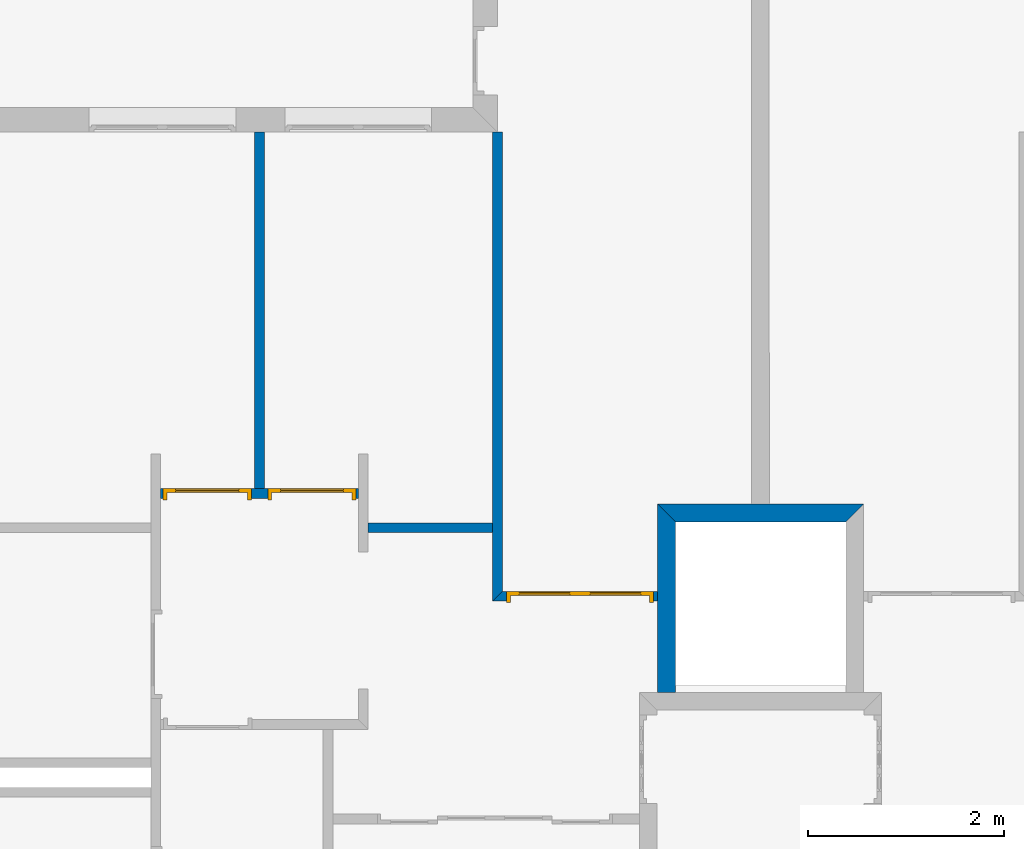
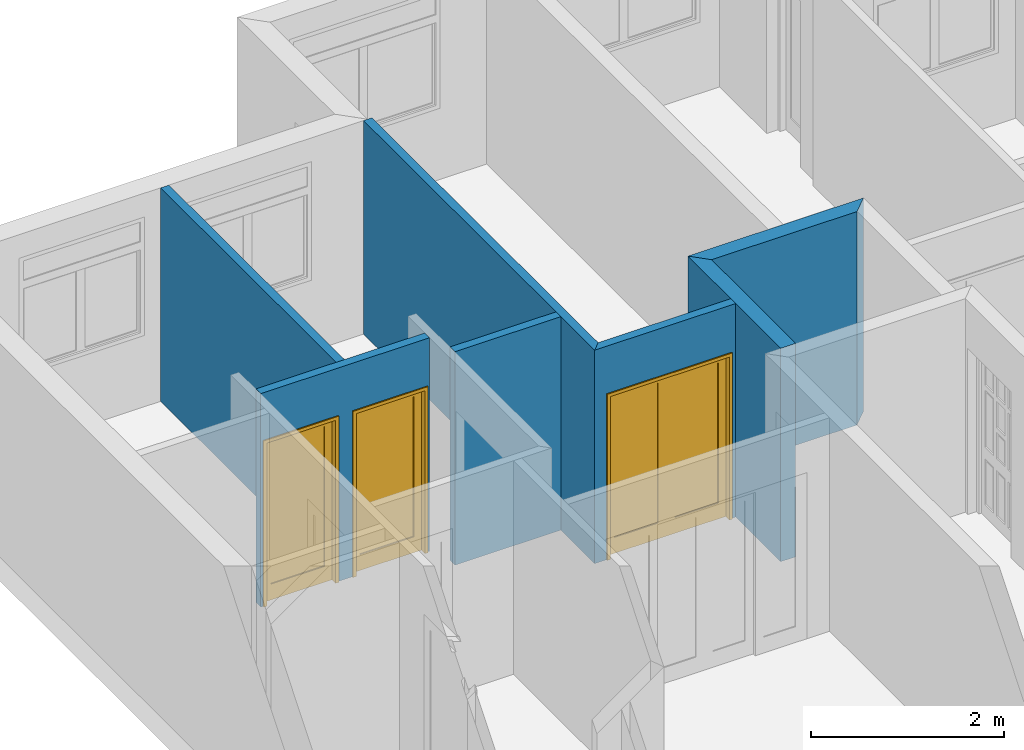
# One storey, part 9 of 13: 7 walls, 3 doors, 3 openings.
"""IFC2X3 building model written with IfcOpenShell, lengths in metres."""

from ifc_helpers import new_model, entity, si_unit, converted_unit, direction, frame, frame_2d, origin_with_axes, place, context, project, spatial, polyline, rectangle, outline, extrude, faceted_brep, source, transform, mapped, material, layer, layer_set, layer_usage, type_object, element, fill, save


model = new_model("IFC2X3")

# Units and contexts
context_of_model = context(None, 3, precision=1e-05, world=origin_with_axes(), true_north=direction((6.123234e-17, 1.0)))
plan_context = context("Plan", 3, precision=1e-05, world=origin_with_axes(), true_north=direction((6.123234e-17, 1.0)))
model_context = context("Model", 3, precision=1e-05, world=origin_with_axes(), true_north=direction((6.123234e-17, 1.0)))
ifc_project = project(units=[si_unit("LENGTHUNIT", "METRE"), si_unit("AREAUNIT", "SQUARE_METRE"), si_unit("VOLUMEUNIT", "CUBIC_METRE"), converted_unit("PLANEANGLEUNIT", "DEGREE", entity("IfcPlaneAngleMeasure", 0.017453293), si_unit("PLANEANGLEUNIT", "RADIAN"), dimensions=[0, 0, 0, 0, 0, 0, 0]), si_unit("SOLIDANGLEUNIT", "STERADIAN"), si_unit("MASSUNIT", "GRAM"), si_unit("TIMEUNIT", "SECOND"), si_unit("THERMODYNAMICTEMPERATUREUNIT", "DEGREE_CELSIUS"), si_unit("LUMINOUSINTENSITYUNIT", "LUMEN")], contexts=[context_of_model, plan_context, model_context])

# Site, building, storey
site_placement = place(None, origin_with_axes())
site = spatial("IfcSite", under=ifc_project, at=site_placement, Name="Por defecto Sitio", CompositionType="ELEMENT")
building_placement = place(site_placement, origin_with_axes())
building = spatial("IfcBuilding", under=site, at=building_placement, Name="Por defecto Edificio", CompositionType="ELEMENT")
storey_placement = place(building_placement, frame((0.0, 0.0, 7.2), z_axis=(0.0, 0.0, 1.0), x_axis=(1.0, 0.0, 0.0)))
storey = spatial("IfcBuildingStorey", under=building, at=storey_placement, Name="Segunda", CompositionType="ELEMENT", Elevation=7.2)

# Walls
ifc_material = material(Name="Ladrillo común")
ifc_layer_1 = layer(ifc_material, 0.18, ventilated="UNKNOWN")
ifc_layer_set_1 = layer_set([ifc_layer_1], Name="Ladrillo común")
ifc_layer_usage_1 = layer_usage(ifc_layer_set_1, "AXIS2", "NEGATIVE", 0.0)
wall_type_1 = type_object("IfcWallType", Name="Ladrillo común", PredefinedType="NOTDEFINED")
wall_1_placement = place(storey_placement, frame((6.965, 7.2976562, 0.0), z_axis=(0.0, 0.0, 1.0), x_axis=(0.0, 1.0, 0.0)))
element("IfcWallStandardCase", 1, at=wall_1_placement, inside=storey, type_object=wall_type_1, material=ifc_layer_usage_1, Name="Muro-011", context=context_of_model, shape_type="SweptSolid", body=[
    extrude(outline(polyline([(0.18, -0.18), (1.9231052, -0.18), (2.1031052, 0.0), (0.18, 8.8817842e-16), (0.18, -0.18)])), origin_with_axes(), (0.0, 0.0, 1.0), 2.7),
])
ifc_layer_usage_2 = layer_usage(ifc_layer_set_1, "AXIS2", "NEGATIVE", 0.0)
wall_2_placement = place(storey_placement, frame((6.965, 9.4007615, 0.0), z_axis=(0.0, 0.0, 1.0), x_axis=(1.0, 0.0, 0.0)))
element("IfcWallStandardCase", 2, at=wall_2_placement, inside=storey, type_object=wall_type_1, material=ifc_layer_usage_2, Name="Muro-012", context=context_of_model, shape_type="SweptSolid", body=[
    extrude(outline(polyline([(0.18, -0.18), (1.92, -0.18), (2.1, 0.0), (-8.8817842e-16, 0.0), (0.18, -0.18)])), origin_with_axes(), (0.0, 0.0, 1.0), 2.7),
])

# Wall, opening, door
ifc_layer_2 = layer(ifc_material, 0.1, ventilated="UNKNOWN")
ifc_layer_set_2 = layer_set([ifc_layer_2], Name="Ladrillo común")
ifc_layer_usage_3 = layer_usage(ifc_layer_set_2, "AXIS2", "POSITIVE", 0.0)
wall_type_2 = type_object("IfcWallType", Name="Ladrillo común", PredefinedType="NOTDEFINED")
wall_3_placement = place(storey_placement, frame((6.965, 8.5109196, 0.0), z_axis=(0.0, 0.0, 1.0), x_axis=(-1.0, 0.0, 0.0)))
wall_3 = element("IfcWallStandardCase", 3, at=wall_3_placement, inside=storey, type_object=wall_type_2, material=ifc_layer_usage_3, Name="Muro-028", context=context_of_model, shape_type="SweptSolid", body=[
    extrude(outline(polyline([(0.0, 0.0), (1.5868836, 0.0), (1.6868836, 0.1), (2.6645353e-15, 0.1), (0.0, 0.0)])), origin_with_axes(), (0.0, 0.0, 1.0), 2.7),
])
opening_1_placement = place(wall_3_placement, frame((0.7934418, 0.0, 0.0), z_axis=(0.0, 0.0, 1.0), x_axis=(1.0, 0.0, 0.0)))
opening_1 = element("IfcOpeningElement", 4, at=opening_1_placement, cuts=wall_3, ObjectType="Opening", context=model_context, shape_type="SweptSolid", body=[
    extrude(rectangle(XDim=1.5, YDim=2.1, at=frame_2d((0.0, 1.05), x_axis=(-1.0, 0.0))), frame((0.0, 0.0, 0.0), z_axis=(0.0, 1.0, 0.0), x_axis=(-1.0, 0.0, 0.0)), (0.0, 0.0, 1.0), 0.1),
])
door_style_1 = type_object("IfcDoorStyle", Name="P2 12", ConstructionType="NOTDEFINED", OperationType="DOUBLE_DOOR_SINGLE_SWING", ParameterTakesPrecedence=False, Sizeable=False)
shared_shape_1 = source(origin_with_axes(), model_context, "Body", "Brep", [
    faceted_brep([(0.04, 0.075, 0.0), (0.04, 0.075, 2.06), (0.04, 0.0, 2.06), (0.04, 0.0, 0.0), (0.028, 0.075, 2.06), (0.028, 0.075, 0.0), (0.028, 0.115, 2.06), (0.0, 0.115, 2.06), (0.0, 0.0, 2.06), (0.0, 0.0, 0.0), (0.0, 0.115, 0.0), (0.028, 0.115, 0.0)], [[[0, 1, 2, 3]], [[4, 1, 0, 5]], [[4, 6, 7, 8, 2, 1]], [[9, 3, 2, 8]], [[5, 0, 3, 9, 10, 11]], [[6, 4, 5, 11]], [[6, 11, 10, 7]], [[8, 7, 10, 9]]]),
    faceted_brep([(1.472, 0.075, 2.06), (1.46, 0.075, 2.06), (1.46, 0.0, 2.06), (1.5, 0.0, 2.06), (1.5, 0.115, 2.06), (1.472, 0.115, 2.06), (1.472, 0.075, 0.0), (1.46, 0.075, 0.0), (1.46, 0.0, 0.0), (1.5, 0.0, 0.0), (1.5, 0.115, 0.0), (1.472, 0.115, 0.0)], [[[0, 1, 2, 3, 4, 5]], [[1, 0, 6, 7]], [[1, 7, 8, 2]], [[8, 9, 3, 2]], [[9, 10, 4, 3]], [[11, 5, 4, 10]], [[0, 5, 11, 6]], [[6, 11, 10, 9, 8, 7]]]),
    faceted_brep([(0.028, 0.115, 2.072), (0.028, 0.115, 2.06), (0.0, 0.115, 2.06), (0.0, 0.115, 2.1), (1.5, 0.115, 2.1), (1.5, 0.115, 2.06), (1.472, 0.115, 2.06), (1.472, 0.115, 2.072), (0.028, 0.075, 2.072), (0.028, 0.075, 2.06), (0.04, 0.075, 2.06), (0.04, 0.0, 2.06), (0.0, 0.0, 2.06), (0.0, 0.0, 2.1), (1.5, 0.0, 2.1), (1.5, 0.0, 2.06), (1.472, 0.075, 2.06), (1.46, 0.0, 2.06), (1.46, 0.075, 2.06), (1.472, 0.075, 2.072)], [[[0, 1, 2, 3, 4, 5, 6, 7]], [[1, 0, 8, 9]], [[9, 10, 11, 12, 2, 1]], [[13, 3, 2, 12]], [[14, 4, 3, 13]], [[15, 5, 4, 14]], [[16, 6, 5, 15, 17, 18]], [[7, 6, 16, 19]], [[0, 7, 19, 8]], [[16, 18, 10, 9, 8, 19]], [[10, 18, 17, 11]], [[14, 13, 12, 11, 17, 15]]]),
    faceted_brep([(1.472, 0.115, 0.2), (1.472, 0.075, 0.2), (1.372, 0.075, 0.2), (1.372, 0.115, 0.2), (1.472, 0.115, 1.972), (1.472, 0.075, 1.972), (1.372, 0.075, 1.972), (1.372, 0.115, 1.972)], [[[0, 1, 2, 3]], [[4, 5, 1, 0]], [[1, 5, 6, 2]], [[3, 2, 6, 7]], [[0, 3, 7, 4]], [[7, 6, 5, 4]]]),
    faceted_brep([(0.751, 0.115, 0.2), (0.751, 0.075, 0.2), (0.751, 0.075, 1.972), (0.751, 0.115, 1.972), (0.851, 0.115, 0.2), (0.851, 0.075, 0.2), (0.851, 0.075, 1.972), (0.851, 0.115, 1.972)], [[[0, 1, 2, 3]], [[4, 5, 1, 0]], [[1, 5, 6, 2]], [[3, 2, 6, 7]], [[0, 3, 7, 4]], [[7, 6, 5, 4]]]),
    faceted_brep([(1.472, 0.115, 0.0), (1.472, 0.075, 0.0), (0.751, 0.075, 0.0), (0.751, 0.115, 0.0), (1.472, 0.115, 0.2), (1.472, 0.075, 0.2), (1.372, 0.075, 0.2), (0.851, 0.075, 0.2), (0.751, 0.075, 0.2), (0.751, 0.115, 0.2), (0.851, 0.115, 0.2), (1.372, 0.115, 0.2)], [[[0, 1, 2, 3]], [[4, 5, 1, 0]], [[1, 5, 6, 7, 8, 2]], [[3, 2, 8, 9]], [[0, 3, 9, 10, 11, 4]], [[11, 6, 5, 4]], [[10, 7, 6, 11]], [[9, 8, 7, 10]]]),
    faceted_brep([(1.472, 0.115, 2.072), (1.472, 0.075, 2.072), (1.472, 0.075, 1.972), (1.472, 0.115, 1.972), (0.751, 0.115, 2.072), (0.751, 0.075, 2.072), (0.751, 0.075, 1.972), (0.851, 0.075, 1.972), (1.372, 0.075, 1.972), (1.372, 0.115, 1.972), (0.851, 0.115, 1.972), (0.751, 0.115, 1.972)], [[[0, 1, 2, 3]], [[4, 5, 1, 0]], [[1, 5, 6, 7, 8, 2]], [[3, 2, 8, 9]], [[0, 3, 9, 10, 11, 4]], [[11, 6, 5, 4]], [[10, 7, 6, 11]], [[9, 8, 7, 10]]]),
    faceted_brep([(1.372, 0.101, 0.2), (1.372, 0.089, 0.2), (0.851, 0.089, 0.2), (0.851, 0.101, 0.2), (1.372, 0.101, 1.972), (1.372, 0.089, 1.972), (0.851, 0.089, 1.972), (0.851, 0.101, 1.972)], [[[0, 1, 2, 3]], [[4, 5, 1, 0]], [[1, 5, 6, 2]], [[3, 2, 6, 7]], [[0, 3, 7, 4]], [[7, 6, 5, 4]]]),
    faceted_brep([(0.028, 0.115, 0.2), (0.128, 0.115, 0.2), (0.128, 0.075, 0.2), (0.028, 0.075, 0.2), (0.028, 0.115, 1.972), (0.128, 0.115, 1.972), (0.128, 0.075, 1.972), (0.028, 0.075, 1.972)], [[[0, 1, 2, 3]], [[0, 4, 5, 1]], [[1, 5, 6, 2]], [[3, 2, 6, 7]], [[4, 0, 3, 7]], [[5, 4, 7, 6]]]),
    faceted_brep([(0.749, 0.115, 0.2), (0.749, 0.115, 1.972), (0.749, 0.075, 1.972), (0.749, 0.075, 0.2), (0.649, 0.115, 0.2), (0.649, 0.115, 1.972), (0.649, 0.075, 1.972), (0.649, 0.075, 0.2)], [[[0, 1, 2, 3]], [[0, 4, 5, 1]], [[1, 5, 6, 2]], [[3, 2, 6, 7]], [[4, 0, 3, 7]], [[5, 4, 7, 6]]]),
    faceted_brep([(0.028, 0.115, 0.0), (0.749, 0.115, 0.0), (0.749, 0.075, 0.0), (0.028, 0.075, 0.0), (0.028, 0.115, 0.2), (0.128, 0.115, 0.2), (0.649, 0.115, 0.2), (0.749, 0.115, 0.2), (0.749, 0.075, 0.2), (0.649, 0.075, 0.2), (0.128, 0.075, 0.2), (0.028, 0.075, 0.2)], [[[0, 1, 2, 3]], [[0, 4, 5, 6, 7, 1]], [[1, 7, 8, 2]], [[3, 2, 8, 9, 10, 11]], [[4, 0, 3, 11]], [[5, 4, 11, 10]], [[6, 5, 10, 9]], [[7, 6, 9, 8]]]),
    faceted_brep([(0.028, 0.115, 2.072), (0.028, 0.115, 1.972), (0.028, 0.075, 1.972), (0.028, 0.075, 2.072), (0.749, 0.115, 2.072), (0.749, 0.115, 1.972), (0.649, 0.115, 1.972), (0.128, 0.115, 1.972), (0.128, 0.075, 1.972), (0.649, 0.075, 1.972), (0.749, 0.075, 1.972), (0.749, 0.075, 2.072)], [[[0, 1, 2, 3]], [[0, 4, 5, 6, 7, 1]], [[1, 7, 8, 2]], [[3, 2, 8, 9, 10, 11]], [[4, 0, 3, 11]], [[5, 4, 11, 10]], [[6, 5, 10, 9]], [[7, 6, 9, 8]]]),
    faceted_brep([(0.128, 0.101, 0.2), (0.649, 0.101, 0.2), (0.649, 0.089, 0.2), (0.128, 0.089, 0.2), (0.128, 0.101, 1.972), (0.649, 0.101, 1.972), (0.649, 0.089, 1.972), (0.128, 0.089, 1.972)], [[[0, 1, 2, 3]], [[0, 4, 5, 1]], [[1, 5, 6, 2]], [[3, 2, 6, 7]], [[4, 0, 3, 7]], [[5, 4, 7, 6]]]),
])
door_1_placement = place(opening_1_placement, frame((0.75, 0.115, 0.0), z_axis=(0.0, 0.0, 1.0), x_axis=(-1.0, 0.0, 0.0)))
door_1 = element("IfcDoor", 5, at=door_1_placement, inside=storey, type_object=door_style_1, Name="P27", OverallHeight=2.1, OverallWidth=1.5, context=model_context, shape_type="MappedRepresentation", body=[
    mapped(shared_shape_1, transform((0.0, 0.0, 0.0), scale=1.0)),
])
fill(opening_1, door_1)

# Walls
ifc_layer_usage_4 = layer_usage(ifc_layer_set_2, "AXIS2", "POSITIVE", 0.0)
wall_4_placement = place(storey_placement, frame((2.9501652, 9.4609196, 0.0), z_axis=(0.0, 0.0, 1.0), x_axis=(0.0, 1.0, 0.0)))
element("IfcWallStandardCase", 6, at=wall_4_placement, inside=storey, type_object=wall_type_2, material=ifc_layer_usage_4, Name="Muro-039", context=context_of_model, shape_type="SweptSolid", body=[
    extrude(outline(polyline([(0.1, 0.0), (3.738253, 0.0), (3.738253, 0.1), (0.1, 0.1), (0.1, 0.0)])), origin_with_axes(), (0.0, 0.0, 1.0), 2.7),
])
ifc_layer_usage_5 = layer_usage(ifc_layer_set_2, "AXIS2", "POSITIVE", 0.0)
wall_5_placement = place(storey_placement, frame((5.2781164, 9.2109196, 0.0), z_axis=(0.0, 0.0, 1.0), x_axis=(-1.0, 0.0, 0.0)))
element("IfcWallStandardCase", 7, at=wall_5_placement, inside=storey, type_object=wall_type_2, material=ifc_layer_usage_5, Name="Muro-027", context=context_of_model, shape_type="SweptSolid", body=[
    extrude(outline(polyline([(0.0, 0.0), (1.2679512, 0.0), (1.2679512, 0.1), (0.0, 0.1), (0.0, 0.0)])), origin_with_axes(), (0.0, 0.0, 1.0), 2.7),
])

# Wall, openings, doors
ifc_layer_usage_6 = layer_usage(ifc_layer_set_2, "AXIS2", "POSITIVE", 0.0)
wall_6_placement = place(storey_placement, frame((1.8901652, 9.4609196, 0.0), z_axis=(0.0, 0.0, 1.0), x_axis=(1.0, 0.0, 0.0)))
wall_6 = element("IfcWallStandardCase", 8, at=wall_6_placement, inside=storey, type_object=wall_type_2, material=ifc_layer_usage_6, Name="Muro-038", context=context_of_model, shape_type="SweptSolid", body=[
    extrude(outline(polyline([(0.0, 0.0), (2.02, 0.0), (2.02, 0.1), (0.0, 0.1), (0.0, 0.0)])), origin_with_axes(), (0.0, 0.0, 1.0), 2.7),
])
opening_2_placement = place(wall_6_placement, frame((1.5448045, 0.0, 0.0), z_axis=(0.0, 0.0, 1.0), x_axis=(1.0, 0.0, 0.0)))
opening_2 = element("IfcOpeningElement", 9, at=opening_2_placement, cuts=wall_6, ObjectType="Opening", context=model_context, shape_type="SweptSolid", body=[
    extrude(rectangle(XDim=0.9, YDim=2.1, at=frame_2d((0.0, 1.05), x_axis=(-1.0, 0.0))), frame((0.0, 0.0, 0.0), z_axis=(0.0, 1.0, 0.0), x_axis=(-1.0, 0.0, 0.0)), (0.0, 0.0, 1.0), 0.1),
])
opening_3_placement = place(wall_6_placement, frame((0.47680965, 0.0, 0.0), z_axis=(0.0, 0.0, 1.0), x_axis=(1.0, 0.0, 0.0)))
opening_3 = element("IfcOpeningElement", 10, at=opening_3_placement, cuts=wall_6, ObjectType="Opening", context=model_context, shape_type="SweptSolid", body=[
    extrude(rectangle(XDim=0.9, YDim=2.1, at=frame_2d((1.110223e-16, 1.05), x_axis=(1.0, 0.0))), frame((0.0, 0.0, 0.0), z_axis=(0.0, 1.0, 0.0), x_axis=(-1.0, 0.0, 0.0)), (0.0, 0.0, 1.0), 0.1),
])
door_style_2 = type_object("IfcDoorStyle", Name="P1 12", ConstructionType="NOTDEFINED", OperationType="SINGLE_SWING_RIGHT", ParameterTakesPrecedence=False, Sizeable=False)
shared_shape_2 = source(origin_with_axes(), model_context, "Body", "Brep", [
    faceted_brep([(0.04, 0.075, -2.4492936e-18), (0.04, 0.075, 2.06), (0.04, 0.0, 2.06), (0.04, 0.0, -7.0417191e-18), (0.028, 0.075, 2.06), (0.028, 0.075, -2.4492936e-18), (0.028, 0.115, 2.06), (0.0, 0.115, 2.06), (0.0, 0.0, 2.06), (0.0, 0.0, 0.0), (0.0, 0.115, 3.3744595e-33), (0.028, 0.115, 3.2707143e-33)], [[[0, 1, 2, 3]], [[4, 1, 0, 5]], [[4, 6, 7, 8, 2, 1]], [[9, 3, 2, 8]], [[5, 0, 3, 9, 10, 11]], [[6, 4, 5, 11]], [[6, 11, 10, 7]], [[8, 7, 10, 9]]]),
    faceted_brep([(0.872, 0.075, 2.06), (0.86, 0.075, 2.06), (0.86, 0.0, 2.06), (0.9, 0.0, 2.06), (0.9, 0.115, 2.06), (0.872, 0.115, 2.06), (0.872, 0.075, -2.4492936e-18), (0.86, 0.075, -2.4492936e-18), (0.86, 0.0, -7.0417191e-18), (0.9, 0.0, -7.0417191e-18), (0.9, 0.115, -3.3744595e-33), (0.872, 0.115, -3.1644931e-33)], [[[0, 1, 2, 3, 4, 5]], [[1, 0, 6, 7]], [[1, 7, 8, 2]], [[8, 9, 3, 2]], [[9, 10, 4, 3]], [[11, 5, 4, 10]], [[0, 5, 11, 6]], [[6, 11, 10, 9, 8, 7]]]),
    faceted_brep([(0.028, 0.115, 2.072), (0.028, 0.115, 2.06), (0.0, 0.115, 2.06), (0.0, 0.115, 2.1), (0.9, 0.115, 2.1), (0.9, 0.115, 2.06), (0.872, 0.115, 2.06), (0.872, 0.115, 2.072), (0.028, 0.075, 2.072), (0.028, 0.075, 2.06), (0.04, 0.075, 2.06), (0.04, 0.0, 2.06), (0.0, 0.0, 2.06), (0.0, 0.0, 2.1), (0.9, 0.0, 2.1), (0.9, 0.0, 2.06), (0.872, 0.075, 2.06), (0.86, 0.0, 2.06), (0.86, 0.075, 2.06), (0.872, 0.075, 2.072)], [[[0, 1, 2, 3, 4, 5, 6, 7]], [[1, 0, 8, 9]], [[9, 10, 11, 12, 2, 1]], [[13, 3, 2, 12]], [[14, 4, 3, 13]], [[15, 5, 4, 14]], [[16, 6, 5, 15, 17, 18]], [[7, 6, 16, 19]], [[0, 7, 19, 8]], [[16, 18, 10, 9, 8, 19]], [[10, 18, 17, 11]], [[14, 13, 12, 11, 17, 15]]]),
    faceted_brep([(0.872, 0.115, 0.2), (0.872, 0.075, 0.2), (0.772, 0.075, 0.2), (0.772, 0.115, 0.2), (0.872, 0.115, 1.972), (0.872, 0.075, 1.972), (0.772, 0.075, 1.972), (0.772, 0.115, 1.972)], [[[0, 1, 2, 3]], [[4, 5, 1, 0]], [[1, 5, 6, 2]], [[3, 2, 6, 7]], [[0, 3, 7, 4]], [[7, 6, 5, 4]]]),
    faceted_brep([(0.028, 0.115, 0.2), (0.028, 0.075, 0.2), (0.028, 0.075, 1.972), (0.028, 0.115, 1.972), (0.128, 0.115, 0.2), (0.128, 0.075, 0.2), (0.128, 0.075, 1.972), (0.128, 0.115, 1.972)], [[[0, 1, 2, 3]], [[4, 5, 1, 0]], [[1, 5, 6, 2]], [[3, 2, 6, 7]], [[0, 3, 7, 4]], [[7, 6, 5, 4]]]),
    faceted_brep([(0.872, 0.115, -3.1644931e-33), (0.872, 0.075, -2.4492936e-18), (0.028, 0.075, -2.4492936e-18), (0.028, 0.115, 3.1644931e-33), (0.872, 0.115, 0.2), (0.872, 0.075, 0.2), (0.772, 0.075, 0.2), (0.128, 0.075, 0.2), (0.028, 0.075, 0.2), (0.028, 0.115, 0.2), (0.128, 0.115, 0.2), (0.772, 0.115, 0.2)], [[[0, 1, 2, 3]], [[4, 5, 1, 0]], [[1, 5, 6, 7, 8, 2]], [[3, 2, 8, 9]], [[0, 3, 9, 10, 11, 4]], [[11, 6, 5, 4]], [[10, 7, 6, 11]], [[9, 8, 7, 10]]]),
    faceted_brep([(0.872, 0.115, 2.072), (0.872, 0.075, 2.072), (0.872, 0.075, 1.972), (0.872, 0.115, 1.972), (0.028, 0.115, 2.072), (0.028, 0.075, 2.072), (0.028, 0.075, 1.972), (0.128, 0.075, 1.972), (0.772, 0.075, 1.972), (0.772, 0.115, 1.972), (0.128, 0.115, 1.972), (0.028, 0.115, 1.972)], [[[0, 1, 2, 3]], [[4, 5, 1, 0]], [[1, 5, 6, 7, 8, 2]], [[3, 2, 8, 9]], [[0, 3, 9, 10, 11, 4]], [[11, 6, 5, 4]], [[10, 7, 6, 11]], [[9, 8, 7, 10]]]),
    faceted_brep([(0.772, 0.101, 0.2), (0.772, 0.089, 0.2), (0.128, 0.089, 0.2), (0.128, 0.101, 0.2), (0.772, 0.101, 1.972), (0.772, 0.089, 1.972), (0.128, 0.089, 1.972), (0.128, 0.101, 1.972)], [[[0, 1, 2, 3]], [[4, 5, 1, 0]], [[1, 5, 6, 2]], [[3, 2, 6, 7]], [[0, 3, 7, 4]], [[7, 6, 5, 4]]]),
])
door_2_placement = place(opening_3_placement, frame((-0.45, -0.015, 0.0), z_axis=(0.0, 0.0, 1.0), x_axis=(1.0, 0.0, 0.0)))
door_2 = element("IfcDoor", 11, at=door_2_placement, inside=storey, type_object=door_style_2, Name="P16", OverallHeight=2.1, OverallWidth=0.9, context=model_context, shape_type="MappedRepresentation", body=[
    mapped(shared_shape_2, transform((0.0, 0.0, 0.0), scale=1.0)),
])
fill(opening_3, door_2)
door_style_3 = type_object("IfcDoorStyle", Name="P1 12", ConstructionType="NOTDEFINED", OperationType="SINGLE_SWING_LEFT", ParameterTakesPrecedence=False, Sizeable=False)
shared_shape_3 = source(origin_with_axes(), model_context, "Body", "Brep", [
    faceted_brep([(0.86, 0.075, 0.0), (0.86, 0.0, 0.0), (0.86, 0.0, 2.06), (0.86, 0.075, 2.06), (0.872, 0.075, 0.0), (0.872, 0.115, 0.0), (0.9, 0.115, 0.0), (0.9, 0.0, 0.0), (0.9, 0.0, 2.06), (0.872, 0.075, 2.06), (0.9, 0.115, 2.06), (0.872, 0.115, 2.06)], [[[0, 1, 2, 3]], [[4, 5, 6, 7, 1, 0]], [[7, 8, 2, 1]], [[9, 3, 2, 8, 10, 11]], [[9, 4, 0, 3]], [[11, 5, 4, 9]], [[11, 10, 6, 5]], [[8, 7, 6, 10]]]),
    faceted_brep([(0.028, 0.075, 2.06), (0.028, 0.115, 2.06), (-4.4408921e-16, 0.115, 2.06), (-4.4408921e-16, 0.0, 2.06), (0.04, 0.0, 2.06), (0.04, 0.075, 2.06), (0.028, 0.075, 0.0), (0.028, 0.115, 0.0), (-4.4408921e-16, 0.115, 0.0), (0.0, 0.0, 0.0), (0.04, 0.0, 0.0), (0.04, 0.075, 0.0)], [[[0, 1, 2, 3, 4, 5]], [[0, 6, 7, 1]], [[7, 8, 2, 1]], [[9, 3, 2, 8]], [[10, 4, 3, 9]], [[5, 4, 10, 11]], [[5, 11, 6, 0]], [[6, 11, 10, 9, 8, 7]]]),
    faceted_brep([(0.872, 0.115, 2.072), (0.028, 0.115, 2.072), (0.028, 0.115, 2.06), (-4.4408921e-16, 0.115, 2.06), (-4.4408921e-16, 0.115, 2.1), (0.9, 0.115, 2.1), (0.9, 0.115, 2.06), (0.872, 0.115, 2.06), (0.872, 0.075, 2.072), (0.028, 0.075, 2.072), (0.028, 0.075, 2.06), (0.04, 0.075, 2.06), (0.04, 0.0, 2.06), (-4.4408921e-16, 0.0, 2.06), (-4.4408921e-16, 0.0, 2.1), (0.9, 0.0, 2.1), (0.9, 0.0, 2.06), (0.872, 0.075, 2.06), (0.86, 0.0, 2.06), (0.86, 0.075, 2.06)], [[[0, 1, 2, 3, 4, 5, 6, 7]], [[0, 8, 9, 1]], [[1, 9, 10, 2]], [[10, 11, 12, 13, 3, 2]], [[13, 14, 4, 3]], [[14, 15, 5, 4]], [[15, 16, 6, 5]], [[17, 7, 6, 16, 18, 19]], [[7, 17, 8, 0]], [[10, 9, 8, 17, 19, 11]], [[19, 18, 12, 11]], [[14, 13, 12, 18, 16, 15]]]),
    faceted_brep([(0.028, 0.115, 0.2), (0.128, 0.115, 0.2), (0.128, 0.075, 0.2), (0.028, 0.075, 0.2), (0.028, 0.115, 1.972), (0.128, 0.115, 1.972), (0.128, 0.075, 1.972), (0.028, 0.075, 1.972)], [[[0, 1, 2, 3]], [[0, 4, 5, 1]], [[1, 5, 6, 2]], [[3, 2, 6, 7]], [[4, 0, 3, 7]], [[5, 4, 7, 6]]]),
    faceted_brep([(0.872, 0.115, 0.2), (0.872, 0.115, 1.972), (0.872, 0.075, 1.972), (0.872, 0.075, 0.2), (0.772, 0.115, 0.2), (0.772, 0.115, 1.972), (0.772, 0.075, 1.972), (0.772, 0.075, 0.2)], [[[0, 1, 2, 3]], [[0, 4, 5, 1]], [[1, 5, 6, 2]], [[3, 2, 6, 7]], [[4, 0, 3, 7]], [[5, 4, 7, 6]]]),
    faceted_brep([(0.028, 0.115, 0.0), (0.872, 0.115, 0.0), (0.872, 0.075, 0.0), (0.028, 0.075, 0.0), (0.028, 0.115, 0.2), (0.128, 0.115, 0.2), (0.772, 0.115, 0.2), (0.872, 0.115, 0.2), (0.872, 0.075, 0.2), (0.772, 0.075, 0.2), (0.128, 0.075, 0.2), (0.028, 0.075, 0.2)], [[[0, 1, 2, 3]], [[0, 4, 5, 6, 7, 1]], [[1, 7, 8, 2]], [[3, 2, 8, 9, 10, 11]], [[4, 0, 3, 11]], [[5, 4, 11, 10]], [[6, 5, 10, 9]], [[7, 6, 9, 8]]]),
    faceted_brep([(0.028, 0.115, 2.072), (0.028, 0.115, 1.972), (0.028, 0.075, 1.972), (0.028, 0.075, 2.072), (0.872, 0.115, 2.072), (0.872, 0.115, 1.972), (0.772, 0.115, 1.972), (0.128, 0.115, 1.972), (0.128, 0.075, 1.972), (0.772, 0.075, 1.972), (0.872, 0.075, 1.972), (0.872, 0.075, 2.072)], [[[0, 1, 2, 3]], [[0, 4, 5, 6, 7, 1]], [[1, 7, 8, 2]], [[3, 2, 8, 9, 10, 11]], [[4, 0, 3, 11]], [[5, 4, 11, 10]], [[6, 5, 10, 9]], [[7, 6, 9, 8]]]),
    faceted_brep([(0.128, 0.101, 0.2), (0.772, 0.101, 0.2), (0.772, 0.089, 0.2), (0.128, 0.089, 0.2), (0.128, 0.101, 1.972), (0.772, 0.101, 1.972), (0.772, 0.089, 1.972), (0.128, 0.089, 1.972)], [[[0, 1, 2, 3]], [[0, 4, 5, 1]], [[1, 5, 6, 2]], [[3, 2, 6, 7]], [[4, 0, 3, 7]], [[5, 4, 7, 6]]]),
])
door_3_placement = place(opening_2_placement, frame((-0.45, -0.015, 0.0), z_axis=(0.0, 0.0, 1.0), x_axis=(1.0, 0.0, 0.0)))
door_3 = element("IfcDoor", 12, at=door_3_placement, inside=storey, type_object=door_style_3, Name="P15", OverallHeight=2.1, OverallWidth=0.9, context=model_context, shape_type="MappedRepresentation", body=[
    mapped(shared_shape_3, transform((0.0, 0.0, 0.0), scale=1.0)),
])
fill(opening_2, door_3)

# Wall
ifc_layer_usage_7 = layer_usage(ifc_layer_set_2, "AXIS2", "NEGATIVE", 0.0)
wall_7_placement = place(storey_placement, frame((5.2781164, 8.5109196, 0.0), z_axis=(0.0, 0.0, 1.0), x_axis=(0.0, 1.0, 0.0)))
element("IfcWallStandardCase", 13, at=wall_7_placement, inside=storey, type_object=wall_type_2, material=ifc_layer_usage_7, Name="Muro-031", context=context_of_model, shape_type="SweptSolid", body=[
    extrude(outline(polyline([(0.0, -0.1), (4.688253, -0.1), (4.688253, 0.0), (-0.1, 0.0), (0.0, -0.1)])), origin_with_axes(), (0.0, 0.0, 1.0), 2.7),
])

save(model, "model.ifc")
